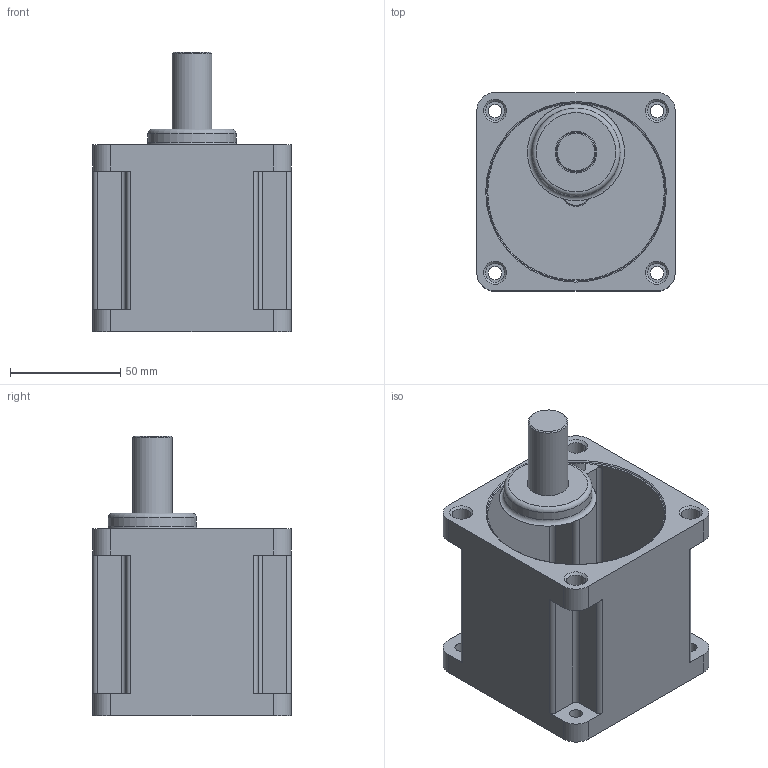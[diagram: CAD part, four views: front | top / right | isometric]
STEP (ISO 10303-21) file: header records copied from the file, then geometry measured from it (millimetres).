
FILE_DESCRIPTION((''),'2;1');
FILE_NAME('D:\김성묵\업무폴더\개발 파일\프로젝트 개발 AB등급\AC표준형 개발자료\90각 이하 표준형 개발\도면작성 자료\3D 도면\GEAR HEAD\S9SD3B~200B.stp','2015-03-24T19:04:50',('smkim'),(''),'Autodesk Inventor 2012','Autodesk Inventor 2012','');
FILE_SCHEMA(('AUTOMOTIVE_DESIGN { 1 0 10303 214 1 1 1 1 }'));
Length unit declared in the file: millimetre
Products named in the file (1): S9SD3B~200B
Bounding box: 90 x 90 x 127 mm (x, y, z)
Volume: 619702.7 mm3; surface area: 53839.5 mm2
Topology: 1 solids, 1 shells, 72 faces, 184 edges, 119 vertices
Faces by surface type: cylinder 33, plane 28, cone 7, torus 4
Full cylindrical faces by diameter (mm): 6 x4, 8.5 x4, 12 x1, 18 x1, 19 x1, 40 x1, 83 x1
Entity records: 2118 total; most frequent: DIRECTION 382, CARTESIAN_POINT 348, ORIENTED_EDGE 316, EDGE_CURVE 158, AXIS2_PLACEMENT_3D 151, VERTEX_POINT 117, EDGE_LOOP 117, VECTOR 80
